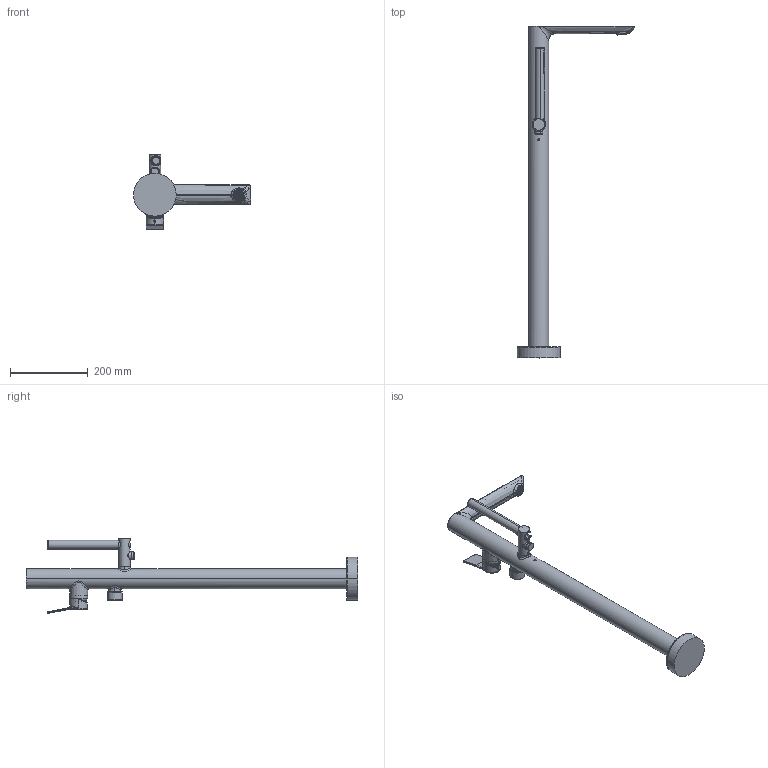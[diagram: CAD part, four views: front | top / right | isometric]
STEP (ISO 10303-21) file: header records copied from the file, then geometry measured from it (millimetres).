
FILE_DESCRIPTION (( 'STEP AP203' ), '1' );
FILE_NAME ('85122010 x architetti.STEP', '2026-06-12T15:34:43', ( '' ), ( '' ), 'SwSTEP 2.0', 'SolidWorks 2020', '' );
FILE_SCHEMA (( 'CONFIG_CONTROL_DESIGN' ));
Products named in the file (1): 85122010 x architetti
Bounding box: 301.22 x 854 x 192.65 mm (x, y, z)
Volume: 2191239.7 mm3; surface area: 313666.9 mm2
Topology: 6 solids, 22 shells, 2047 faces, 4940 edges, 3225 vertices
Faces by surface type: plane 1300, cylinder 445, bspline 158, cone 79, torus 53, sphere 12
Entity records: 131944 total; most frequent: CARTESIAN_POINT 86199, ORIENTED_EDGE 9862, DIRECTION 8265, EDGE_CURVE 4931, VECTOR 3307, LINE 3307, VERTEX_POINT 3225, AXIS2_PLACEMENT_3D 2479
